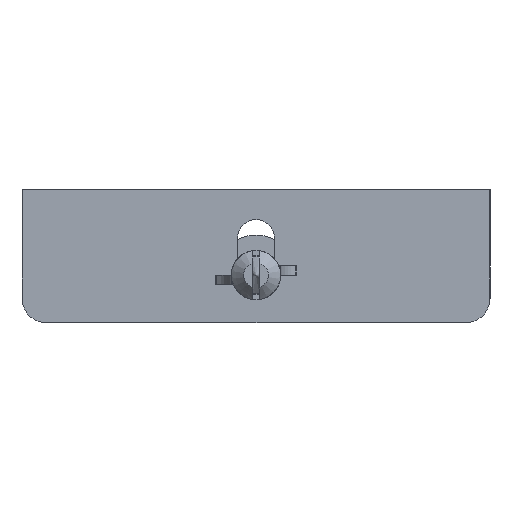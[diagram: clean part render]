
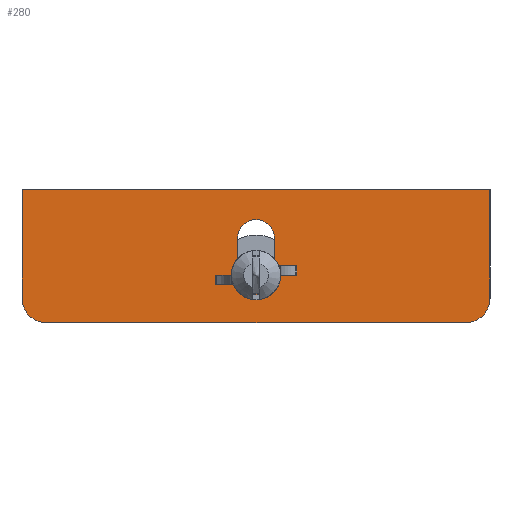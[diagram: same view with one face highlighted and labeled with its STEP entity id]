
A CAD part, left-side view. The second image highlights one B-rep face of the part: STEP entity #280.
In plain terms, the highlighted planar face has unit normal (-1, 0, 0).
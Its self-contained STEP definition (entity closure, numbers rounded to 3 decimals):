
#280=ADVANCED_FACE('',(#429,#431),#433,.F.);
#429=FACE_BOUND('',#430,.T.);
#430=EDGE_LOOP('',(#1524,#1525,#1526,#1527,#1528,#1529));
#431=FACE_BOUND('',#432,.T.);
#432=EDGE_LOOP('',(#1530,#1531,#1532,#1533));
#433=PLANE('',#434);
#434=AXIS2_PLACEMENT_3D('',#435,#436,#437);
#435=CARTESIAN_POINT('',(0.,0.,0.));
#436=DIRECTION('',(1.,0.,0.));
#437=DIRECTION('',(0.,1.,0.));
#1524=ORIENTED_EDGE('',*,*,#2244,.F.);
#1525=ORIENTED_EDGE('',*,*,#2245,.F.);
#1526=ORIENTED_EDGE('',*,*,#2246,.F.);
#1527=ORIENTED_EDGE('',*,*,#2247,.F.);
#1528=ORIENTED_EDGE('',*,*,#2248,.F.);
#1529=ORIENTED_EDGE('',*,*,#2249,.F.);
#1530=ORIENTED_EDGE('',*,*,#2250,.T.);
#1531=ORIENTED_EDGE('',*,*,#2251,.T.);
#1532=ORIENTED_EDGE('',*,*,#2252,.T.);
#1533=ORIENTED_EDGE('',*,*,#2253,.T.);
#2244=EDGE_CURVE('',#2604,#2605,#2606,.F.);
#2245=EDGE_CURVE('',#2607,#2604,#2608,.T.);
#2246=EDGE_CURVE('',#2609,#2607,#2610,.F.);
#2247=EDGE_CURVE('',#2611,#2609,#2612,.T.);
#2248=EDGE_CURVE('',#2613,#2611,#2614,.T.);
#2249=EDGE_CURVE('',#2605,#2613,#2615,.T.);
#2250=EDGE_CURVE('',#2616,#2617,#2618,.T.);
#2251=EDGE_CURVE('',#2617,#2619,#2620,.T.);
#2252=EDGE_CURVE('',#2619,#2621,#2622,.T.);
#2253=EDGE_CURVE('',#2621,#2616,#2623,.T.);
#2604=VERTEX_POINT('',#3203);
#2605=VERTEX_POINT('',#3204);
#2606=CIRCLE('',#3205,4.);
#2607=VERTEX_POINT('',#3209);
#2608=LINE('',#3210,#3211);
#2609=VERTEX_POINT('',#3213);
#2610=CIRCLE('',#3214,4.);
#2611=VERTEX_POINT('',#3218);
#2612=LINE('',#3219,#3220);
#2613=VERTEX_POINT('',#3222);
#2614=LINE('',#3223,#3224);
#2615=LINE('',#3226,#3227);
#2616=VERTEX_POINT('',#3229);
#2617=VERTEX_POINT('',#3230);
#2618=LINE('',#3231,#3232);
#2619=VERTEX_POINT('',#3234);
#2620=CIRCLE('',#3235,3.);
#2621=VERTEX_POINT('',#3239);
#2622=LINE('',#3240,#3241);
#2623=CIRCLE('',#3243,3.);
#3203=CARTESIAN_POINT('',(0.,72.,0.));
#3204=CARTESIAN_POINT('',(0.,76.,4.));
#3205=AXIS2_PLACEMENT_3D('',#3206,#3207,#3208);
#3206=CARTESIAN_POINT('',(0.,72.,4.));
#3207=DIRECTION('',(-1.,0.,0.));
#3208=DIRECTION('',(0.,1.,0.));
#3209=CARTESIAN_POINT('',(0.,4.,0.));
#3210=CARTESIAN_POINT('',(0.,4.,0.));
#3211=VECTOR('',#3212,1.);
#3212=DIRECTION('',(0.,1.,0.));
#3213=CARTESIAN_POINT('',(0.,0.,4.));
#3214=AXIS2_PLACEMENT_3D('',#3215,#3216,#3217);
#3215=CARTESIAN_POINT('',(0.,4.,4.));
#3216=DIRECTION('',(-1.,0.,0.));
#3217=DIRECTION('',(0.,0.,-1.));
#3218=CARTESIAN_POINT('',(0.,0.,21.7));
#3219=CARTESIAN_POINT('',(0.,0.,21.7));
#3220=VECTOR('',#3221,1.);
#3221=DIRECTION('',(0.,0.,-1.));
#3222=CARTESIAN_POINT('',(0.,76.,21.7));
#3223=CARTESIAN_POINT('',(0.,76.,21.7));
#3224=VECTOR('',#3225,1.);
#3225=DIRECTION('',(0.,-1.,0.));
#3226=CARTESIAN_POINT('',(0.,76.,4.));
#3227=VECTOR('',#3228,1.);
#3228=DIRECTION('',(0.,0.,1.));
#3229=CARTESIAN_POINT('',(0.,41.,7.75));
#3230=CARTESIAN_POINT('',(0.,41.,13.75));
#3231=CARTESIAN_POINT('',(0.,41.,7.75));
#3232=VECTOR('',#3233,1.);
#3233=DIRECTION('',(0.,0.,1.));
#3234=CARTESIAN_POINT('',(0.,35.,13.75));
#3235=AXIS2_PLACEMENT_3D('',#3236,#3237,#3238);
#3236=CARTESIAN_POINT('',(0.,38.,13.75));
#3237=DIRECTION('',(1.,0.,0.));
#3238=DIRECTION('',(0.,1.,0.));
#3239=CARTESIAN_POINT('',(0.,35.,7.75));
#3240=CARTESIAN_POINT('',(0.,35.,13.75));
#3241=VECTOR('',#3242,1.);
#3242=DIRECTION('',(0.,0.,-1.));
#3243=AXIS2_PLACEMENT_3D('',#3244,#3245,#3246);
#3244=CARTESIAN_POINT('',(0.,38.,7.75));
#3245=DIRECTION('',(1.,0.,0.));
#3246=DIRECTION('',(0.,-1.,0.));
